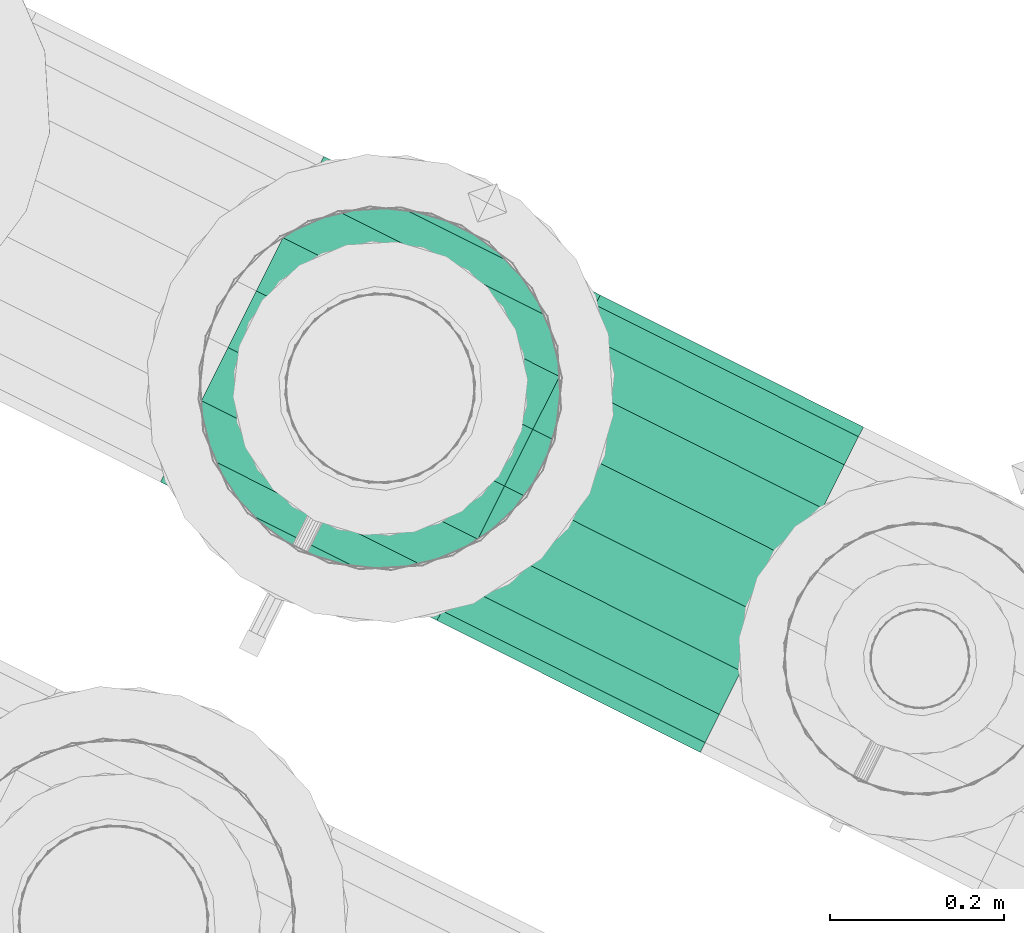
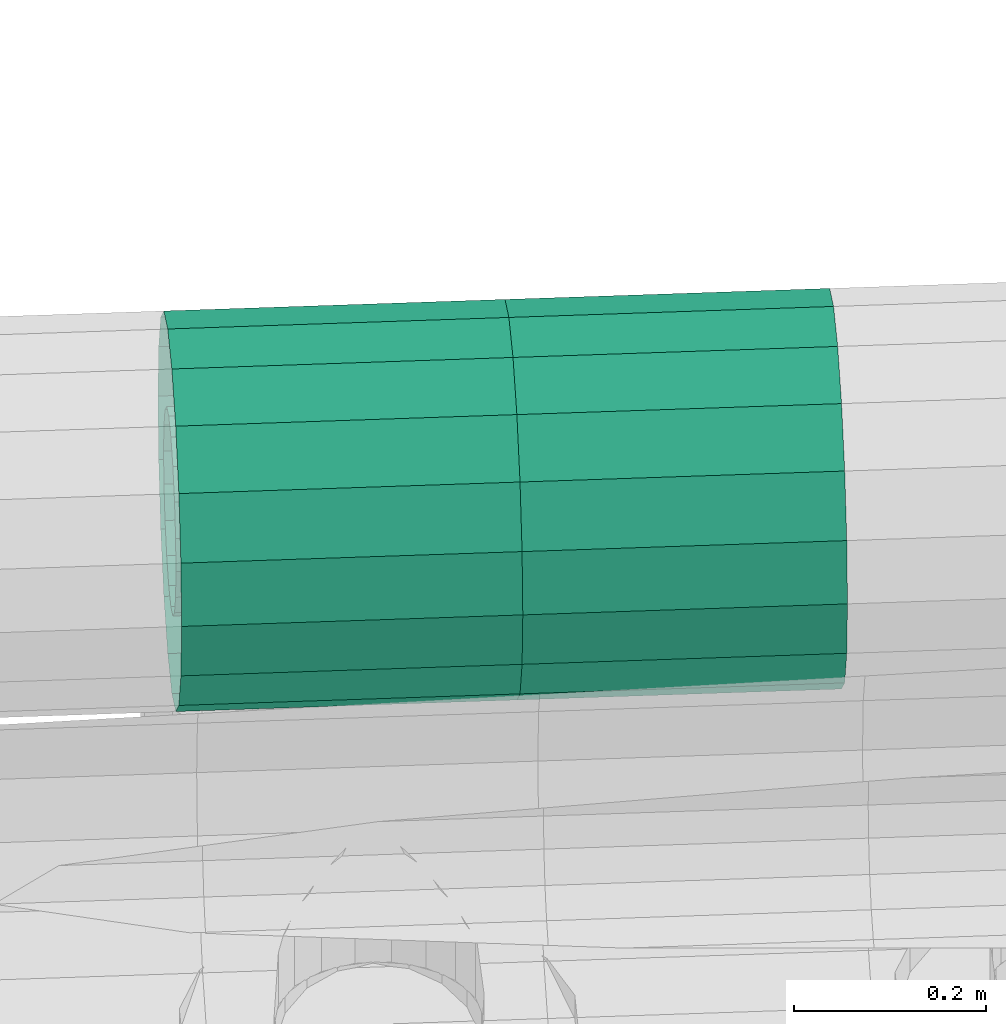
# One storey, part 123 of 152: 1 flow fitting, 1 flow segment.
"""IFC2X3 building model written with IfcOpenShell, lengths in metres."""

from ifc_helpers import new_model, si_unit, derived_unit, direction, frame, origin, place, context, subcontext, project, spatial, face_set, surface_model, source, transform, mapped, material, type_object, type_shapes, element, save


model = new_model("IFC2X3")

# Units and contexts
model_context = context("Model", 3, precision=5.2338327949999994e-05, world=origin(), true_north=direction((0.0, 1.0)))
body_context = subcontext(model_context, "Body", "Model", "MODEL_VIEW")
ifc_project = project(units=[si_unit("LENGTHUNIT", "METRE"), si_unit("AREAUNIT", "SQUARE_METRE"), si_unit("VOLUMEUNIT", "CUBIC_METRE"), si_unit("MASSUNIT", "GRAM", prefix="KILO"), si_unit("PLANEANGLEUNIT", "RADIAN"), derived_unit("THERMALTRANSMITTANCEUNIT", [(si_unit("MASSUNIT", "GRAM", prefix="KILO"), 1), (si_unit("THERMODYNAMICTEMPERATUREUNIT", "KELVIN"), -1), (si_unit("TIMEUNIT", "SECOND"), -3)])], contexts=[model_context])

# Site, building, storey
site_placement = place(None, frame((0.0, 0.0, 0.0), z_axis=(0.0, 0.0, 1.0), x_axis=(0.8939966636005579, -0.4480736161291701, 0.0)))
site = spatial("IfcSite", under=ifc_project, at=site_placement, Name="Default", CompositionType="ELEMENT")
building_placement = place(site_placement, origin())
building = spatial("IfcBuilding", under=site, at=building_placement, CompositionType="ELEMENT")
storey_placement = place(building_placement, frame((0.0, 0.0, 2.7499999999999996)))
storey = spatial("IfcBuildingStorey", under=building, at=storey_placement, Name="1. Obergeschoss", CompositionType="ELEMENT", Elevation=2.7499999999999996)

# Flow fitting
ifc_material = material(Name="IfcSurfaceStyle #1741")
distribution_element_type_1 = type_object("IfcDistributionElementType", Name="Abzweigstück 226683:Abzweigstück 226683", material=ifc_material)
shared_shape_1 = source(origin(), body_context, "Body", "SurfaceModel", [
    surface_model("IfcFaceBasedSurfaceModel", [(6.7658144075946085, 7.902658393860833, 5.553028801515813), (6.7658144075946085, 7.909265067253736, 5.59049710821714), (6.409814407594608, 7.909265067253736, 5.59049710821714), (6.409814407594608, 7.902658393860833, 5.553028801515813), (6.7658144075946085, 7.928288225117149, 5.623446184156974), (6.409814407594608, 7.928288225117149, 5.623446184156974), (6.7658144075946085, 7.957433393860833, 5.6479018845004), (6.409814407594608, 7.957433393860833, 5.6479018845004), (6.7658144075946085, 7.9931852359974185, 5.660914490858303), (6.409814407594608, 7.9931852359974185, 5.660914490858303), (6.7658144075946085, 8.031231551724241, 5.660914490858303), (6.409814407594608, 8.031231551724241, 5.660914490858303), (6.7658144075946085, 8.066983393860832, 5.647901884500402), (6.409814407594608, 8.066983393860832, 5.647901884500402), (6.7658144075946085, 8.096128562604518, 5.623446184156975), (6.409814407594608, 8.096128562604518, 5.623446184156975), (6.7658144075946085, 8.115151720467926, 5.590497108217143), (6.409814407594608, 8.115151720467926, 5.590497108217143), (6.7658144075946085, 8.121758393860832, 5.553028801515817), (6.409814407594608, 8.121758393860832, 5.553028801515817), (6.7658144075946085, 8.115151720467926, 5.51556049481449), (6.409814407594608, 8.115151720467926, 5.51556049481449), (6.7658144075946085, 8.096128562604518, 5.482611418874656), (6.409814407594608, 8.096128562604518, 5.482611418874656), (6.7658144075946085, 8.066983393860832, 5.458155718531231), (6.409814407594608, 8.066983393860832, 5.458155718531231), (6.7658144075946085, 8.031231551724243, 5.445143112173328), (6.409814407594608, 8.031231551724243, 5.445143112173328), (6.7658144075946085, 7.993185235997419, 5.445143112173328), (6.409814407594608, 7.993185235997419, 5.445143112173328), (6.7658144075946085, 7.957433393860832, 5.45815571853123), (6.409814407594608, 7.957433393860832, 5.45815571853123), (6.7658144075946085, 7.928288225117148, 5.4826114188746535), (6.409814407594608, 7.928288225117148, 5.4826114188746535), (6.7658144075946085, 7.909265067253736, 5.515560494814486), (6.409814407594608, 7.909265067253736, 5.515560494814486), (6.7658144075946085, 7.802658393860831, 5.553028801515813), (6.7658144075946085, 7.8152958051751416, 5.624699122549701), (6.409814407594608, 7.815295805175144, 5.624699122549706), (6.409814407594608, 7.802658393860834, 5.553028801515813), (6.7658144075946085, 7.851683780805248, 5.687724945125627), (6.409814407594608, 7.851683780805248, 5.687724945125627), (6.7658144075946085, 7.907433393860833, 5.7345044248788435), (6.409814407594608, 7.907433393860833, 5.7345044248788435), (6.7658144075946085, 7.975820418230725, 5.759395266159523), (6.409814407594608, 7.975820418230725, 5.759395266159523), (6.7658144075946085, 8.048596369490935, 5.759395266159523), (6.409814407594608, 8.048596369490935, 5.759395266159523), (6.7658144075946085, 8.11698339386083, 5.734504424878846), (6.409814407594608, 8.11698339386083, 5.734504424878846), (6.7658144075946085, 8.172733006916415, 5.687724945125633), (6.409814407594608, 8.172733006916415, 5.687724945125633), (6.7658144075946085, 8.20912098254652, 5.6246991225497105), (6.409814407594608, 8.20912098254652, 5.6246991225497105), (6.7658144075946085, 8.22175839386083, 5.553028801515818), (6.409814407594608, 8.22175839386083, 5.553028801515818), (6.7658144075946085, 8.209120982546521, 5.481358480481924), (6.409814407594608, 8.209120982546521, 5.481358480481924), (6.7658144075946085, 8.172733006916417, 5.418332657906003), (6.409814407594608, 8.172733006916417, 5.418332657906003), (6.7658144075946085, 8.116983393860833, 5.371553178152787), (6.409814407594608, 8.116983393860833, 5.371553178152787), (6.7658144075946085, 8.04859636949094, 5.3466623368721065), (6.409814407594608, 8.04859636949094, 5.3466623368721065), (6.7658144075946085, 7.97582041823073, 5.3466623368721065), (6.409814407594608, 7.97582041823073, 5.3466623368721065), (6.7658144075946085, 7.907433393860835, 5.3715531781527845), (6.409814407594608, 7.907433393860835, 5.3715531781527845), (6.7658144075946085, 7.851683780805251, 5.418332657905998), (6.409814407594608, 7.851683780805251, 5.418332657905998), (6.7658144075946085, 7.815295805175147, 5.481358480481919), (6.409814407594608, 7.815295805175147, 5.481358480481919), (6.478264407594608, 8.012208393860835, 5.443478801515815), (6.484871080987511, 8.049676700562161, 5.45008547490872), (6.484871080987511, 8.049676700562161, 5.375028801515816), (6.478264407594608, 8.012208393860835, 5.375028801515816), (6.503894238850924, 8.082625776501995, 5.469108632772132), (6.503894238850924, 8.082625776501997, 5.375028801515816), (6.533039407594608, 8.107081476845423, 5.498253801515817), (6.533039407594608, 8.107081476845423, 5.375028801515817), (6.5687912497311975, 8.120094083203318, 5.534005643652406), (6.5687912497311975, 8.12009408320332, 5.375028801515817), (6.60683756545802, 8.12009408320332, 5.534005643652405), (6.60683756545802, 8.120094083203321, 5.375028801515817), (6.64258940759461, 8.107081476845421, 5.498253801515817), (6.642589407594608, 8.10708147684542, 5.375028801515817), (6.671734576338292, 8.082625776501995, 5.469108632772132), (6.671734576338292, 8.082625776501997, 5.375028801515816), (6.690757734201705, 8.049676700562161, 5.45008547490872), (6.690757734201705, 8.049676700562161, 5.375028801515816), (6.697364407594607, 8.012208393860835, 5.443478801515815), (6.697364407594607, 8.012208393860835, 5.375028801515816), (6.690757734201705, 7.974740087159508, 5.450085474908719), (6.690757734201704, 7.974740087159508, 5.375028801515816), (6.671734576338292, 7.941791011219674, 5.46910863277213), (6.671734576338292, 7.941791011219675, 5.375028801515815), (6.642589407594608, 7.917335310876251, 5.498253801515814), (6.642589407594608, 7.917335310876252, 5.375028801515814), (6.6068375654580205, 7.904322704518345, 5.534005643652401), (6.6068375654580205, 7.904322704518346, 5.375028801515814), (6.568791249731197, 7.904322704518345, 5.534005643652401), (6.568791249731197, 7.904322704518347, 5.375028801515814), (6.533039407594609, 7.917335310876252, 5.498253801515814), (6.533039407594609, 7.917335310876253, 5.375028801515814), (6.503894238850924, 7.9417910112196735, 5.46910863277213), (6.503894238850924, 7.941791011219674, 5.375028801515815), (6.484871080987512, 7.974740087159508, 5.450085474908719), (6.484871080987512, 7.974740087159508, 5.375028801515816)], [face_set([[[0, 1, 2, 3]], [[1, 4, 5, 2]], [[4, 6, 7, 5]], [[6, 8, 9, 7]], [[8, 10, 11, 9]], [[10, 12, 13, 11]], [[12, 14, 15, 13]], [[14, 16, 17, 15]], [[16, 18, 19, 17]], [[18, 20, 21, 19]], [[20, 22, 23, 21]], [[22, 24, 25, 23]], [[24, 26, 27, 25]], [[26, 28, 29, 27]], [[28, 30, 31, 29]], [[30, 32, 33, 31]], [[32, 34, 35, 33]], [[34, 0, 3, 35]], [[36, 37, 38, 39]], [[37, 40, 41, 38]], [[40, 42, 43, 41]], [[42, 44, 45, 43]], [[44, 46, 47, 45]], [[46, 48, 49, 47]], [[48, 50, 51, 49]], [[50, 52, 53, 51]], [[52, 54, 55, 53]], [[54, 56, 57, 55]], [[56, 58, 59, 57]], [[58, 60, 61, 59]], [[60, 62, 63, 61]], [[62, 64, 65, 63]], [[64, 66, 67, 65]], [[66, 68, 69, 67]], [[68, 70, 71, 69]], [[70, 36, 39, 71]], [[72, 73, 74, 75]], [[73, 76, 77, 74]], [[76, 78, 79, 77]], [[78, 80, 81, 79]], [[80, 82, 83, 81]], [[82, 84, 85, 83]], [[84, 86, 87, 85]], [[86, 88, 89, 87]], [[88, 90, 91, 89]], [[90, 92, 93, 91]], [[92, 94, 95, 93]], [[94, 96, 97, 95]], [[96, 98, 99, 97]], [[98, 100, 101, 99]], [[100, 102, 103, 101]], [[102, 104, 105, 103]], [[104, 106, 107, 105]], [[106, 72, 75, 107]]])]),
])
type_shapes(distribution_element_type_1, [shared_shape_1])
flow_fitting_placement = place(storey_placement, frame((0.0, 0.0, -2.7499999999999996)))
element("IfcFlowFitting", 1, at=flow_fitting_placement, inside=storey, type_object=distribution_element_type_1, material=ifc_material, Name="Abzweigstück", ObjectType="Abzweigstück", context=body_context, shape_type="MappedRepresentation", body=[
    mapped(shared_shape_1, transform((0.0, 0.0, 0.0), scale=1.0)),
])

# Flow segment
distribution_element_type_2 = type_object("IfcDistributionElementType", Name="Stahlrohr nach DIN 2448 226706:Stahlrohr nach DIN 2448 226706", material=ifc_material)
shared_shape_2 = source(origin(), body_context, "Body", "SurfaceModel", [
    surface_model("IfcFaceBasedSurfaceModel", [(7.104618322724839, 7.902658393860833, 5.553028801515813), (7.104618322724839, 7.909265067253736, 5.59049710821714), (6.7658144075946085, 7.909265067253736, 5.59049710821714), (6.7658144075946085, 7.902658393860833, 5.553028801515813), (7.104618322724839, 7.928288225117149, 5.623446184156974), (6.7658144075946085, 7.928288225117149, 5.623446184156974), (7.104618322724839, 7.957433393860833, 5.6479018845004), (6.7658144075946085, 7.957433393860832, 5.647901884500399), (7.104618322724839, 7.9931852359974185, 5.660914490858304), (6.7658144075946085, 7.993185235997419, 5.660914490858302), (7.104618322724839, 8.031231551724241, 5.660914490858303), (6.7658144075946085, 8.031231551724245, 5.660914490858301), (7.104618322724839, 8.066983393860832, 5.6479018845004), (6.7658144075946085, 8.066983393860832, 5.6479018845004), (7.104618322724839, 8.096128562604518, 5.623446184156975), (6.7658144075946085, 8.096128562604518, 5.623446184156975), (7.104618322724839, 8.115151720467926, 5.590497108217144), (6.7658144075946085, 8.115151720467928, 5.590497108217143), (7.104618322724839, 8.121758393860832, 5.553028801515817), (6.7658144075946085, 8.121758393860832, 5.553028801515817), (7.104618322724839, 8.115151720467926, 5.51556049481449), (6.7658144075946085, 8.11515172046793, 5.515560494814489), (7.104618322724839, 8.096128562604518, 5.482611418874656), (6.7658144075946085, 8.096128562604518, 5.482611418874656), (7.104618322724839, 8.066983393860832, 5.458155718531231), (6.7658144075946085, 8.066983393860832, 5.4581557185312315), (7.104618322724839, 8.031231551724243, 5.4451431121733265), (6.7658144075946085, 8.031231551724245, 5.445143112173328), (7.104618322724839, 7.993185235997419, 5.445143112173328), (6.7658144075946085, 7.99318523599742, 5.445143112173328), (7.104618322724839, 7.957433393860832, 5.45815571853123), (6.7658144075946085, 7.957433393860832, 5.45815571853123), (7.104618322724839, 7.928288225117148, 5.4826114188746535), (6.7658144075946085, 7.928288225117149, 5.4826114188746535), (7.104618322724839, 7.909265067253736, 5.515560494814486), (6.7658144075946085, 7.909265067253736, 5.515560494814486), (7.104618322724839, 7.802658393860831, 5.553028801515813), (7.104618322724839, 7.8152958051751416, 5.624699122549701), (6.7658144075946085, 7.815295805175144, 5.624699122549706), (6.7658144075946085, 7.802658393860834, 5.553028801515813), (7.104618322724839, 7.8516837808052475, 5.687724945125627), (6.7658144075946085, 7.851683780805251, 5.687724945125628), (7.104618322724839, 7.907433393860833, 5.734504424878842), (6.7658144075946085, 7.907433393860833, 5.734504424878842), (7.104618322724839, 7.975820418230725, 5.759395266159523), (6.7658144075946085, 7.975820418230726, 5.759395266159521), (7.104618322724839, 8.048596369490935, 5.759395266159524), (6.7658144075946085, 8.048596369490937, 5.759395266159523), (7.104618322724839, 8.11698339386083, 5.734504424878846), (6.7658144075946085, 8.116983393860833, 5.7345044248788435), (7.104618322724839, 8.172733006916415, 5.687724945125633), (6.7658144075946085, 8.172733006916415, 5.687724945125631), (7.104618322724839, 8.209120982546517, 5.62469912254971), (6.7658144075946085, 8.20912098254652, 5.624699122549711), (7.104618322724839, 8.221758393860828, 5.553028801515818), (6.7658144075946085, 8.221758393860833, 5.553028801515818), (7.104618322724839, 8.209120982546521, 5.481358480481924), (6.7658144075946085, 8.209120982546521, 5.481358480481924), (7.104618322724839, 8.172733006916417, 5.418332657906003), (6.7658144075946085, 8.172733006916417, 5.418332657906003), (7.104618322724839, 8.116983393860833, 5.371553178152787), (6.7658144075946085, 8.116983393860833, 5.371553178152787), (7.104618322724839, 8.04859636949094, 5.3466623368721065), (6.7658144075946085, 8.048596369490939, 5.3466623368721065), (7.104618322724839, 7.97582041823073, 5.346662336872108), (6.7658144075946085, 7.975820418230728, 5.3466623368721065), (7.104618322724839, 7.907433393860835, 5.371553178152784), (6.7658144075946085, 7.907433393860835, 5.371553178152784), (7.104618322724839, 7.851683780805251, 5.418332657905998), (6.7658144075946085, 7.851683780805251, 5.418332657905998), (7.104618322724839, 7.815295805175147, 5.481358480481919), (6.7658144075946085, 7.815295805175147, 5.481358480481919)], [face_set([[[0, 1, 2, 3]], [[1, 4, 5, 2]], [[4, 6, 7, 5]], [[6, 8, 9, 7]], [[8, 10, 11, 9]], [[10, 12, 13, 11]], [[12, 14, 15, 13]], [[14, 16, 17, 15]], [[16, 18, 19, 17]], [[18, 20, 21, 19]], [[20, 22, 23, 21]], [[22, 24, 25, 23]], [[24, 26, 27, 25]], [[26, 28, 29, 27]], [[28, 30, 31, 29]], [[30, 32, 33, 31]], [[32, 34, 35, 33]], [[34, 0, 3, 35]], [[36, 37, 38, 39]], [[37, 40, 41, 38]], [[40, 42, 43, 41]], [[42, 44, 45, 43]], [[44, 46, 47, 45]], [[46, 48, 49, 47]], [[48, 50, 51, 49]], [[50, 52, 53, 51]], [[52, 54, 55, 53]], [[54, 56, 57, 55]], [[56, 58, 59, 57]], [[58, 60, 61, 59]], [[60, 62, 63, 61]], [[62, 64, 65, 63]], [[64, 66, 67, 65]], [[66, 68, 69, 67]], [[68, 70, 71, 69]], [[70, 36, 39, 71]]])]),
])
type_shapes(distribution_element_type_2, [shared_shape_2])
flow_segment_placement = place(storey_placement, frame((0.0, 0.0, -2.7499999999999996)))
element("IfcFlowSegment", 2, at=flow_segment_placement, inside=storey, type_object=distribution_element_type_2, material=ifc_material, Name="Stahlrohr nach DIN 2448", ObjectType="Stahlrohr nach DIN 2448", context=body_context, shape_type="MappedRepresentation", body=[
    mapped(shared_shape_2, transform((0.0, 0.0, 0.0), scale=1.0)),
])

save(model, "model.ifc")
